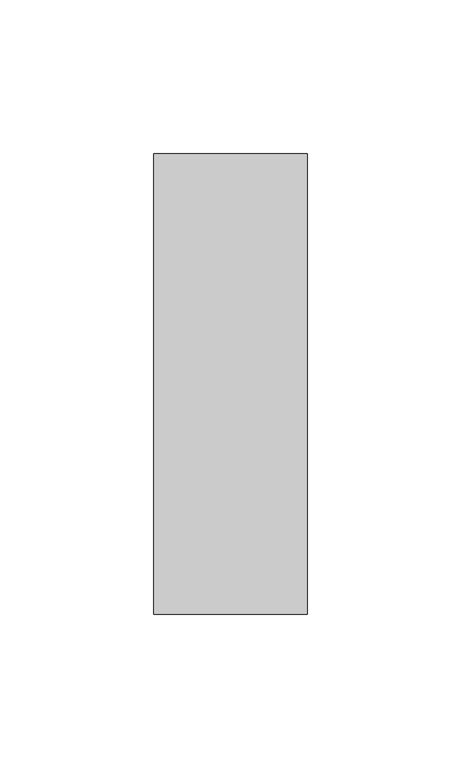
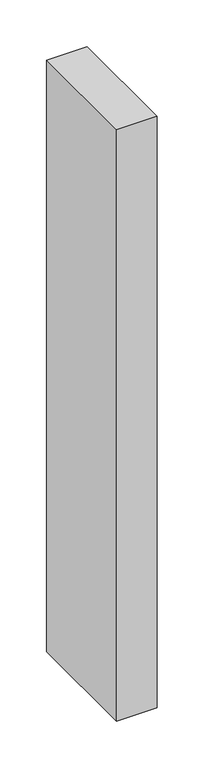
"""IFC4 building model written with IfcOpenShell, lengths in millimetres: member geometry, Прямоугольный импост : 50 x 150 мм."""

from ifc_helpers import new_model, si_unit, frame, origin, place, context, project, spatial, polyline, outline, extrude, source, transform, mapped, element, save


def member_2a6e057b(model_context):
    return source(origin(), model_context, "Body", "SweptSolid", [
        extrude(outline(polyline([(25.0, 75.0), (25.0, -75.0), (-25.0, -75.0), (-25.0, 75.0), (25.0, 75.0)])), frame((0.0, 0.0, -771.5335061), z_axis=(0.0, 0.0, 1.0), x_axis=(1.0, 0.0, 0.0)), (0.0, 0.0, 1.0), 771.5335061),
    ])


if __name__ == "__main__":
    model = new_model("IFC4")
    model_context = context("Model", 3, world=origin())
    ifc_project = project(units=[si_unit("LENGTHUNIT", "METRE", prefix="MILLI")], contexts=[model_context])
    site = spatial("IfcSite", under=ifc_project)
    building = spatial("IfcBuilding", under=site)
    placement = place(None, origin())
    member_shape = member_2a6e057b(model_context)
    element("IfcMember", 1, ObjectType="Прямоугольный импост : 50 x 150 мм", at=placement, inside=building, context=model_context, shape_type="MappedRepresentation", body=[
        mapped(member_shape, transform((0.0, 0.0, 0.0), x_axis=(1.0, 0.0, 0.0), y_axis=(0.0, 1.0, 0.0), z_axis=(0.0, 0.0, 1.0))),
    ])
    save(model, "model.ifc")
